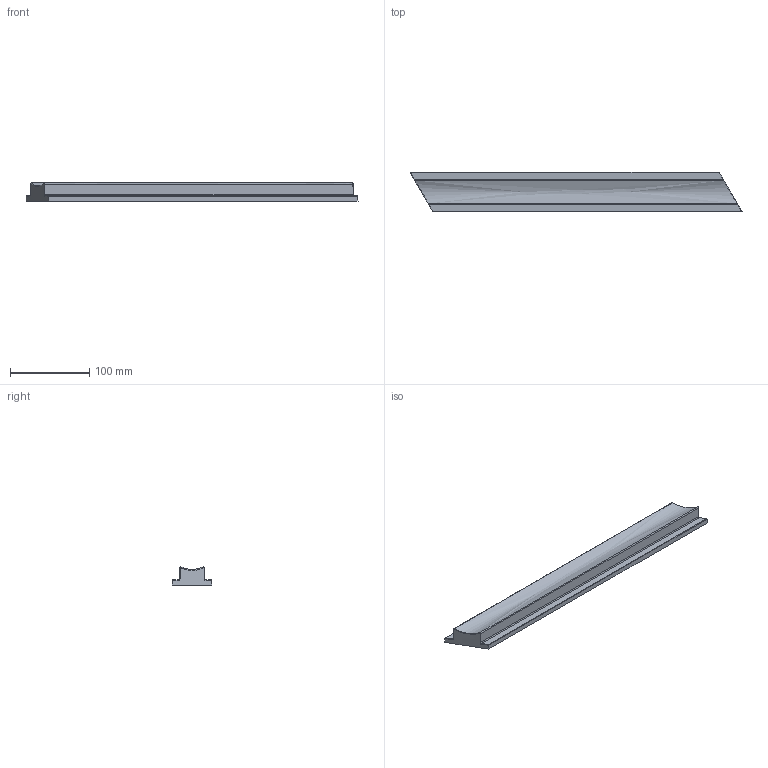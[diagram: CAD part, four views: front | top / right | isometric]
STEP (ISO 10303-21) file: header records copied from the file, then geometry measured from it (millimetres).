
FILE_DESCRIPTION(/* description */ (''),/* implementation_level */ '2;1');
FILE_NAME(/* name */ 'Clamo042',/* time_stamp */ '2023-04-07T08:00:22+02:00',/* author */ (''),/* organization */ (''),/* preprocessor_version */ 'ST-DEVELOPER v16.5',/* originating_system */ '',/* authorisation */ '');
FILE_SCHEMA (('AUTOMOTIVE_DESIGN'));
Length unit declared in the file: millimetre
Products named in the file (1): Document
Bounding box: 420 x 49.63 x 22.99 mm (x, y, z)
Volume: 297141.8 mm3; surface area: 57889.3 mm2
Topology: 1 solids, 1 shells, 34 faces, 95 edges, 63 vertices
Faces by surface type: bspline 25, plane 9
Entity records: 2015 total; most frequent: CARTESIAN_POINT 1384, ORIENTED_EDGE 190, EDGE_CURVE 95, B_SPLINE_CURVE_WITH_KNOTS 95, VERTEX_POINT 63, ADVANCED_FACE 34, FACE_OUTER_BOUND 34, EDGE_LOOP 34
